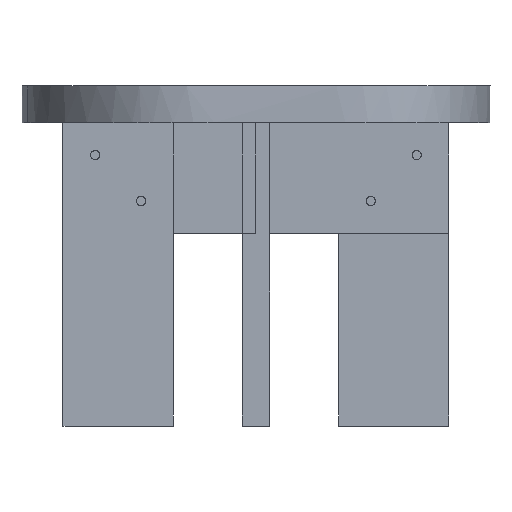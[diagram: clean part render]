
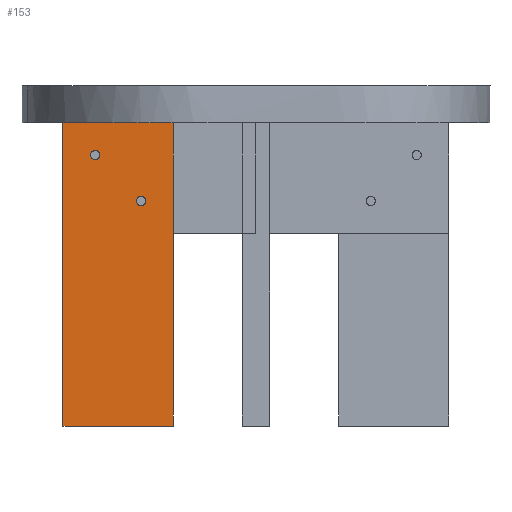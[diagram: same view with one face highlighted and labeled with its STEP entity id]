
A CAD part, left-side view. The second image highlights one B-rep face of the part: STEP entity #153.
In plain terms, the highlighted planar face has unit normal (-1, 0, 0).
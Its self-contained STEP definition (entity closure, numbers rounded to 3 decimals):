
#70=FACE_BOUND('',#442,.T.);
#71=FACE_BOUND('',#443,.T.);
#153=ADVANCED_FACE('',(#285,#70,#71),#1983,.T.);
#285=FACE_OUTER_BOUND('',#441,.T.);
#441=EDGE_LOOP('',(#878,#879,#880,#881,#882));
#442=EDGE_LOOP('',(#883,#884));
#443=EDGE_LOOP('',(#885,#886));
#878=ORIENTED_EDGE('',*,*,#1286,.T.);
#879=ORIENTED_EDGE('',*,*,#1287,.T.);
#880=ORIENTED_EDGE('',*,*,#1288,.T.);
#881=ORIENTED_EDGE('',*,*,#1289,.T.);
#882=ORIENTED_EDGE('',*,*,#1284,.F.);
#883=ORIENTED_EDGE('',*,*,#1303,.T.);
#884=ORIENTED_EDGE('',*,*,#1309,.T.);
#885=ORIENTED_EDGE('',*,*,#1307,.T.);
#886=ORIENTED_EDGE('',*,*,#1313,.T.);
#1284=EDGE_CURVE('',#1814,#1815,#1652,.T.);
#1286=EDGE_CURVE('',#1814,#1816,#1654,.T.);
#1287=EDGE_CURVE('',#1816,#1817,#1655,.T.);
#1288=EDGE_CURVE('',#1817,#1818,#1656,.T.);
#1289=EDGE_CURVE('',#1818,#1815,#1657,.T.);
#1303=EDGE_CURVE('',#1819,#1830,#1467,.T.);
#1307=EDGE_CURVE('',#1820,#1831,#1471,.T.);
#1309=EDGE_CURVE('',#1830,#1819,#1473,.T.);
#1313=EDGE_CURVE('',#1831,#1820,#1477,.T.);
#1467=(
BOUNDED_CURVE()
B_SPLINE_CURVE(2,(#15562,#15563,#15564,#15565,#15566),.UNSPECIFIED.,.F.,
 .F.)
B_SPLINE_CURVE_WITH_KNOTS((3,2,3),(-40.,-30.,
-20.),.UNSPECIFIED.)
CURVE()
GEOMETRIC_REPRESENTATION_ITEM()
RATIONAL_B_SPLINE_CURVE((1.,0.707,1.,0.707,1.))
REPRESENTATION_ITEM('')
);
#1471=(
BOUNDED_CURVE()
B_SPLINE_CURVE(2,(#15581,#15582,#15583,#15584,#15585),.UNSPECIFIED.,.F.,
 .F.)
B_SPLINE_CURVE_WITH_KNOTS((3,2,3),(0.,10.,20.),
 .UNSPECIFIED.)
CURVE()
GEOMETRIC_REPRESENTATION_ITEM()
RATIONAL_B_SPLINE_CURVE((1.,0.707,1.,0.707,1.))
REPRESENTATION_ITEM('')
);
#1473=(
BOUNDED_CURVE()
B_SPLINE_CURVE(2,(#15590,#15591,#15592,#15593,#15594),.UNSPECIFIED.,.F.,
 .F.)
B_SPLINE_CURVE_WITH_KNOTS((3,2,3),(-20.,-10.,0.),
 .UNSPECIFIED.)
CURVE()
GEOMETRIC_REPRESENTATION_ITEM()
RATIONAL_B_SPLINE_CURVE((1.,0.707,1.,0.707,1.))
REPRESENTATION_ITEM('')
);
#1477=(
BOUNDED_CURVE()
B_SPLINE_CURVE(2,(#15609,#15610,#15611,#15612,#15613),.UNSPECIFIED.,.F.,
 .F.)
B_SPLINE_CURVE_WITH_KNOTS((3,2,3),(20.,30.,40.),
 .UNSPECIFIED.)
CURVE()
GEOMETRIC_REPRESENTATION_ITEM()
RATIONAL_B_SPLINE_CURVE((1.,0.707,1.,0.707,1.))
REPRESENTATION_ITEM('')
);
#1652=B_SPLINE_CURVE_WITH_KNOTS('',1,(#15522,#15523),.UNSPECIFIED.,.F.,
 .F.,(2,2),(0.,120.),.UNSPECIFIED.);
#1654=B_SPLINE_CURVE_WITH_KNOTS('',1,(#15526,#15527),.UNSPECIFIED.,.F.,
 .F.,(2,2),(0.,210.),.UNSPECIFIED.);
#1655=B_SPLINE_CURVE_WITH_KNOTS('',1,(#15528,#15529),.UNSPECIFIED.,.F.,
 .F.,(2,2),(0.,120.),.UNSPECIFIED.);
#1656=B_SPLINE_CURVE_WITH_KNOTS('',1,(#15530,#15531),.UNSPECIFIED.,.F.,
 .F.,(2,2),(0.,120.),.UNSPECIFIED.);
#1657=B_SPLINE_CURVE_WITH_KNOTS('',1,(#15532,#15533),.UNSPECIFIED.,.F.,
 .F.,(2,2),(0.,330.),.UNSPECIFIED.);
#1814=VERTEX_POINT('',#15499);
#1815=VERTEX_POINT('',#15500);
#1816=VERTEX_POINT('',#15501);
#1817=VERTEX_POINT('',#15502);
#1818=VERTEX_POINT('',#15503);
#1819=VERTEX_POINT('',#15504);
#1820=VERTEX_POINT('',#15505);
#1830=VERTEX_POINT('',#15515);
#1831=VERTEX_POINT('',#15516);
#1983=PLANE('',#2177);
#2177=AXIS2_PLACEMENT_3D('',#15485,#2310,$);
#2310=DIRECTION('',(-1.,0.,0.));
#15485=CARTESIAN_POINT('',(-25.361,78.078,-33.146));
#15499=CARTESIAN_POINT('',(-25.361,90.09,-0.134));
#15500=CARTESIAN_POINT('',(-25.361,210.09,-0.134));
#15501=CARTESIAN_POINT('',(-25.361,90.09,209.866));
#15502=CARTESIAN_POINT('',(-25.361,90.09,329.866));
#15503=CARTESIAN_POINT('',(-25.361,210.09,329.866));
#15504=CARTESIAN_POINT('',(-25.361,120.09,244.866));
#15505=CARTESIAN_POINT('',(-25.361,170.09,294.866));
#15515=CARTESIAN_POINT('',(-25.361,130.09,244.866));
#15516=CARTESIAN_POINT('',(-25.361,180.09,294.866));
#15522=CARTESIAN_POINT('',(-25.361,90.09,-0.134));
#15523=CARTESIAN_POINT('',(-25.361,210.09,-0.134));
#15526=CARTESIAN_POINT('',(-25.361,90.09,-0.134));
#15527=CARTESIAN_POINT('',(-25.361,90.09,209.866));
#15528=CARTESIAN_POINT('',(-25.361,90.09,209.866));
#15529=CARTESIAN_POINT('',(-25.361,90.09,329.866));
#15530=CARTESIAN_POINT('',(-25.361,90.09,329.866));
#15531=CARTESIAN_POINT('',(-25.361,210.09,329.866));
#15532=CARTESIAN_POINT('',(-25.361,210.09,329.866));
#15533=CARTESIAN_POINT('',(-25.361,210.09,-0.134));
#15562=CARTESIAN_POINT('',(-25.361,120.09,244.866));
#15563=CARTESIAN_POINT('',(-25.361,120.09,239.866));
#15564=CARTESIAN_POINT('',(-25.361,125.09,239.866));
#15565=CARTESIAN_POINT('',(-25.361,130.09,239.866));
#15566=CARTESIAN_POINT('',(-25.361,130.09,244.866));
#15581=CARTESIAN_POINT('',(-25.361,170.09,294.866));
#15582=CARTESIAN_POINT('',(-25.361,170.09,289.866));
#15583=CARTESIAN_POINT('',(-25.361,175.09,289.866));
#15584=CARTESIAN_POINT('',(-25.361,180.09,289.866));
#15585=CARTESIAN_POINT('',(-25.361,180.09,294.866));
#15590=CARTESIAN_POINT('',(-25.361,130.09,244.866));
#15591=CARTESIAN_POINT('',(-25.361,130.09,249.866));
#15592=CARTESIAN_POINT('',(-25.361,125.09,249.866));
#15593=CARTESIAN_POINT('',(-25.361,120.09,249.866));
#15594=CARTESIAN_POINT('',(-25.361,120.09,244.866));
#15609=CARTESIAN_POINT('',(-25.361,180.09,294.866));
#15610=CARTESIAN_POINT('',(-25.361,180.09,299.866));
#15611=CARTESIAN_POINT('',(-25.361,175.09,299.866));
#15612=CARTESIAN_POINT('',(-25.361,170.09,299.866));
#15613=CARTESIAN_POINT('',(-25.361,170.09,294.866));
